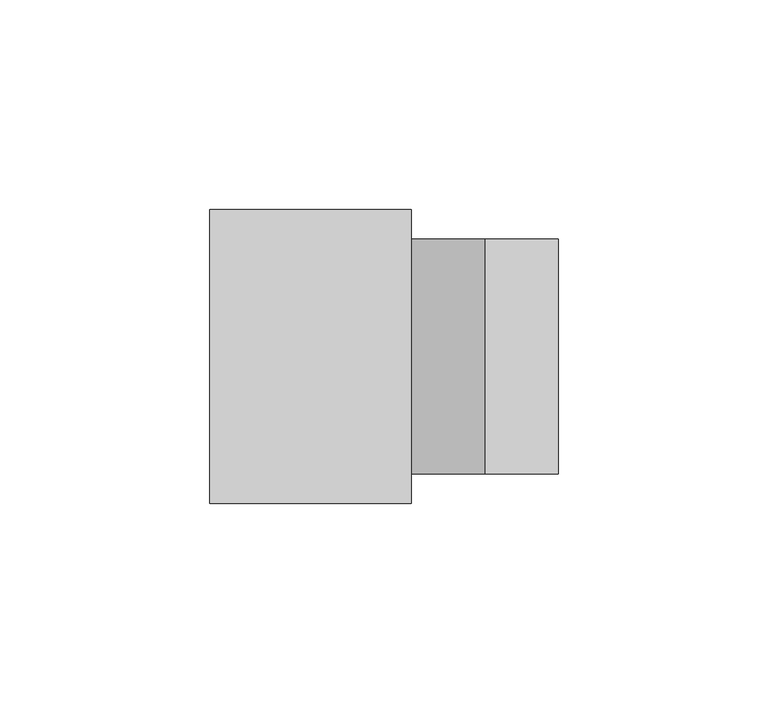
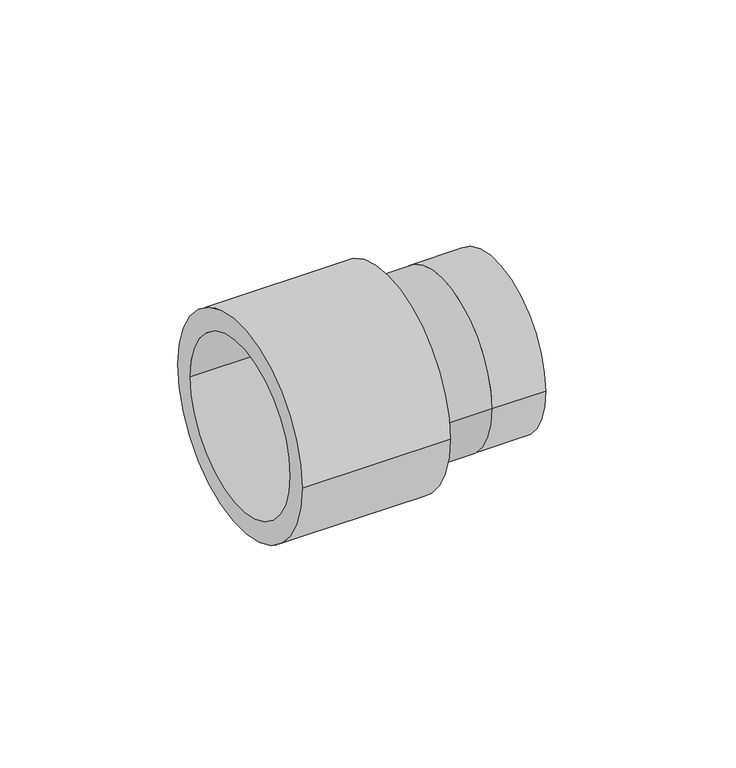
"""IFC4 building model written with IfcOpenShell, lengths in millimetres: pipe fitting geometry, NLRS_52_PIF_UN_PE overgang op lood_geb : DN50-54 / ø50-54."""

import ifcopenshell
import ifcopenshell.guid

model = None  # the IFC model being written
_history = None  # IfcOwnerHistory: only IFC2X3 demands one
_inside = {}  # id of a spatial element -> (the spatial element, [elements in it])
_under = {}  # id of a project, library or spatial element -> (it, [spatial elements below it])
_declared = {}  # id of a project -> (the project, [libraries it declares])
_typed = {}  # id of a type object -> (the type object, [elements of that type])
_made_of = {}  # id of a material, layer set ... -> (it, [elements and type objects made of it])


def new_model(schema):
    """Start an empty IFC model of exactly this schema.

    Asked for "IFC4X3", IfcOpenShell would pick the latest addendum, in which some entities
    have other attributes; the version numbers below select the first issue.
    IFC2X3 requires an IfcOwnerHistory on every rooted entity: one is made here for all.
    """
    global model, _history
    if schema == "IFC4X3":
        model = ifcopenshell.file(schema_version=(4, 3, 0, 0))
    else:
        model = ifcopenshell.file(schema=schema)
    _inside.clear()
    _under.clear()
    _declared.clear()
    _typed.clear()
    _made_of.clear()
    _history = None
    if model.schema == "IFC2X3":
        org = make("IfcOrganization", Name="unknown")
        user = make(
            "IfcPersonAndOrganization",
            ThePerson=make("IfcPerson", FamilyName="unknown"),
            TheOrganization=org,
        )
        app = make(
            "IfcApplication",
            ApplicationDeveloper=org,
            Version="unknown",
            ApplicationFullName="unknown",
            ApplicationIdentifier="unknown",
        )
        _history = make(
            "IfcOwnerHistory",
            OwningUser=user,
            OwningApplication=app,
            ChangeAction="ADDED",
            CreationDate=0,
        )
    return model


def make(cls, **values):
    """One entity of the class cls with the attributes given. An attribute that is None is left unset."""
    return model.create_entity(
        cls, **{name: value for name, value in values.items() if value is not None}
    )


def rooted(cls, **values):
    """An entity with a GlobalId (a new one), such as an element, a storey or a relation."""
    return make(cls, GlobalId=ifcopenshell.guid.new(), OwnerHistory=_history, **values)


def si_unit(unit_type, name, prefix=None):
    """IfcSIUnit, for example si_unit("LENGTHUNIT", "METRE", prefix="MILLI")."""
    return make("IfcSIUnit", UnitType=unit_type, Prefix=prefix, Name=name)


def assignment(units):
    """IfcUnitAssignment: the units of a project."""
    return None if units is None else make("IfcUnitAssignment", Units=units)


def point(xyz):
    """IfcCartesianPoint."""
    return None if xyz is None else make("IfcCartesianPoint", Coordinates=xyz)


def direction(xyz):
    """IfcDirection."""
    return None if xyz is None else make("IfcDirection", DirectionRatios=xyz)


def frame(location, z_axis=None, x_axis=None):
    """IfcAxis2Placement3D, a coordinate frame: its origin and axes. An axis left out is left unset."""
    return make(
        "IfcAxis2Placement3D",
        Location=point(location),
        Axis=direction(z_axis),
        RefDirection=direction(x_axis),
    )


def frame_2d(location, x_axis=None):
    """IfcAxis2Placement2D, a coordinate frame in the plane: its origin and x axis."""
    return make(
        "IfcAxis2Placement2D", Location=point(location), RefDirection=direction(x_axis)
    )


def origin():
    """The frame at (0, 0, 0) with its axes left unset."""
    return frame((0.0, 0.0, 0.0))


def origin_2d():
    """The frame at (0, 0) in the plane with its x axis left unset."""
    return frame_2d((0.0, 0.0))


def place(relative_to, where):
    """IfcLocalPlacement: puts the frame where relative to a parent placement (None: the world)."""
    return make(
        "IfcLocalPlacement", PlacementRelTo=relative_to, RelativePlacement=where
    )


def context(
    kind, dimensions, precision=None, world=None, true_north=None, identifier=None
):
    """IfcGeometricRepresentationContext, for example the 3D "Model" context."""
    return make(
        "IfcGeometricRepresentationContext",
        ContextIdentifier=identifier,
        ContextType=kind,
        CoordinateSpaceDimension=dimensions,
        Precision=precision,
        WorldCoordinateSystem=world,
        TrueNorth=true_north,
    )


def project(units=None, contexts=None):
    """IfcProject with its units and contexts."""
    return rooted(
        "IfcProject",
        Name="project",
        RepresentationContexts=contexts,
        UnitsInContext=assignment(units),
    )


def spatial(cls, under=None, at=None, **own):
    """A site, building, storey or space (cls), placed at a placement, below another one or the project."""
    s = rooted(cls, ObjectPlacement=at, **own)
    if under is not None:
        _under.setdefault(under.id(), (under, []))[1].append(s)
    return s


def circle_curve(where, radius):
    """IfcCircle in the frame where."""
    return make("IfcCircle", Position=where, Radius=radius)


def trimmed(basis, trim1, trim2, sense, master):
    """IfcTrimmedCurve: the piece of a basis curve between two trims."""
    return make(
        "IfcTrimmedCurve",
        BasisCurve=basis,
        Trim1=trim1,
        Trim2=trim2,
        SenseAgreement=sense,
        MasterRepresentation=master,
    )


def segment(curve, same_sense, transition):
    """IfcCompositeCurveSegment."""
    return make(
        "IfcCompositeCurveSegment",
        Transition=transition,
        SameSense=same_sense,
        ParentCurve=curve,
    )


def composite_curve(segments, self_intersect=None):
    """IfcCompositeCurve: segments joined end to end."""
    return make("IfcCompositeCurve", Segments=segments, SelfIntersect=self_intersect)


def outline(outer, holes=None, kind="AREA"):
    """IfcArbitraryClosedProfileDef: a profile drawn as a closed curve; with holes, ...WithVoids."""
    if holes is None:
        return make("IfcArbitraryClosedProfileDef", ProfileType=kind, OuterCurve=outer)
    return make(
        "IfcArbitraryProfileDefWithVoids",
        ProfileType=kind,
        OuterCurve=outer,
        InnerCurves=holes,
    )


def extrude(swept, where, along, depth):
    """IfcExtrudedAreaSolid: the profile swept, set in the frame where, extruded along a direction by depth."""
    return make(
        "IfcExtrudedAreaSolid",
        SweptArea=swept,
        Position=where,
        ExtrudedDirection=direction(along),
        Depth=depth,
    )


def shape(context_of_items, identifier, shape_type, items):
    """IfcShapeRepresentation: the items that make up one representation, for example the "Body"."""
    return make(
        "IfcShapeRepresentation",
        ContextOfItems=context_of_items,
        RepresentationIdentifier=identifier,
        RepresentationType=shape_type,
        Items=items,
    )


def source(mapping_origin, context_of_items, identifier, shape_type, items):
    """IfcRepresentationMap: a shape defined once, which mapped items show again and again."""
    return make(
        "IfcRepresentationMap",
        MappingOrigin=mapping_origin,
        MappedRepresentation=shape(context_of_items, identifier, shape_type, items),
    )


def transform(
    local_origin,
    x_axis=None,
    y_axis=None,
    z_axis=None,
    scale=None,
    scale2=None,
    scale3=None,
    uniform=True,
):
    """IfcCartesianTransformationOperator3D, or its non-uniform kind. x_axis, y_axis, z_axis: its Axis1, 2, 3."""
    if uniform:
        return make(
            "IfcCartesianTransformationOperator3D",
            Axis1=direction(x_axis),
            Axis2=direction(y_axis),
            LocalOrigin=point(local_origin),
            Scale=scale,
            Axis3=direction(z_axis),
        )
    return make(
        "IfcCartesianTransformationOperator3DnonUniform",
        Axis1=direction(x_axis),
        Axis2=direction(y_axis),
        LocalOrigin=point(local_origin),
        Scale=scale,
        Axis3=direction(z_axis),
        Scale2=scale2,
        Scale3=scale3,
    )


def mapped(mapping_source, mapping_target):
    """IfcMappedItem: shows the shape of a source again, moved by a transform."""
    return make(
        "IfcMappedItem", MappingSource=mapping_source, MappingTarget=mapping_target
    )


def made_of(thing, what):
    """Note that an element or type object is made of a material, layer set ...; save() writes the relation."""
    if what is not None:
        _made_of.setdefault(what.id(), (what, []))[1].append(thing)
    return thing


def element(
    cls,
    number,
    at=None,
    inside=None,
    cuts=None,
    type_object=None,
    material=None,
    context=None,
    identifier="Body",
    shape_type=None,
    held_by="IfcProductDefinitionShape",
    body=None,
    shapes=None,
    **own,
):
    """One element of the class cls, such as IfcWall. Its Tag is "e" and its number.

    at: its placement. inside: the storey or other place that contains it. cuts: it is an
    opening in that element (IfcRelVoidsElement). A single representation is given by context,
    identifier, shape_type and body (its items); several are given by shapes. held_by: the class
    of the entity that holds the representations. save() writes the other relations.
    """
    e = rooted(cls, Tag="e%d" % number, ObjectPlacement=at, **own)
    if body is not None:
        shapes = [shape(context, identifier, shape_type, body)]
    if shapes is not None:
        e.Representation = make(held_by, Representations=shapes)
    if inside is not None:
        _inside.setdefault(inside.id(), (inside, []))[1].append(e)
    if cuts is not None:
        rooted(
            "IfcRelVoidsElement", RelatingBuildingElement=cuts, RelatedOpeningElement=e
        )
    if type_object is not None:
        _typed.setdefault(type_object.id(), (type_object, []))[1].append(e)
    return made_of(e, material)


def aggregate(whole, parts):
    """IfcRelAggregates: a whole, such as a stair, and the parts it consists of."""
    return rooted("IfcRelAggregates", RelatingObject=whole, RelatedObjects=parts)


def save(model, path):
    """Write the relations noted so far, then the file.

    IfcRelAggregates (storeys below a building ...), IfcRelContainedInSpatialStructure (elements
    in a storey), IfcRelDefinesByType, IfcRelAssociatesMaterial and IfcRelDeclares: one each for
    every whole, place, type object, material and project.
    """
    for whole, parts in _under.values():
        aggregate(whole, parts)
    for where, things in _inside.values():
        rooted(
            "IfcRelContainedInSpatialStructure",
            RelatedElements=things,
            RelatingStructure=where,
        )
    for kind, things in _typed.values():
        rooted("IfcRelDefinesByType", RelatedObjects=things, RelatingType=kind)
    for what, things in _made_of.values():
        rooted("IfcRelAssociatesMaterial", RelatedObjects=things, RelatingMaterial=what)
    for by, libraries in _declared.values():
        rooted("IfcRelDeclares", RelatingContext=by, RelatedDefinitions=libraries)
    model.write(path)


def pipe_fitting_ec2da396(model_context):
    return source(origin(), model_context, "Body", "SweptSolid", [
        extrude(outline(composite_curve([segment(trimmed(circle_curve(origin_2d(), 28.0), [point((-28.0, 0.0))], [point((28.0, 0.0))], False, "CARTESIAN"), True, "CONTINUOUS"), segment(trimmed(circle_curve(origin_2d(), 28.0), [point((28.0, 0.0))], [point((-28.0, 0.0))], False, "CARTESIAN"), True, "CONTINUOUS")], self_intersect=False)), frame((0.0, 0.0, 0.0), z_axis=(1.0, 0.0, 0.0), x_axis=(0.0, 1.0, 0.0)), (0.0, 0.0, 1.0), 17.5),
        extrude(outline(composite_curve([segment(trimmed(circle_curve(origin_2d(), 28.0), [point((-28.0, 0.0))], [point((28.0, 0.0))], False, "CARTESIAN"), True, "CONTINUOUS"), segment(trimmed(circle_curve(origin_2d(), 28.0), [point((28.0, 0.0))], [point((-28.0, 0.0))], False, "CARTESIAN"), True, "CONTINUOUS")], self_intersect=False)), frame((17.5, 0.0, 0.0), z_axis=(1.0, 0.0, 0.0), x_axis=(0.0, 1.0, 0.0)), (0.0, 0.0, 1.0), 17.5),
        extrude(outline(composite_curve([segment(trimmed(circle_curve(origin_2d(), 35.0), [point((-35.0, 0.0))], [point((35.0, 0.0))], False, "CARTESIAN"), True, "CONTINUOUS"), segment(trimmed(circle_curve(origin_2d(), 35.0), [point((35.0, 0.0))], [point((-35.0, 0.0))], False, "CARTESIAN"), True, "CONTINUOUS")], self_intersect=False), holes=[composite_curve([segment(trimmed(circle_curve(origin_2d(), 28.0), [point((-28.0, 0.0))], [point((28.0, 0.0))], True, "CARTESIAN"), True, "CONTINUOUS"), segment(trimmed(circle_curve(origin_2d(), 28.0), [point((28.0, 0.0))], [point((-28.0, 0.0))], True, "CARTESIAN"), True, "CONTINUOUS")], self_intersect=False)]), frame((-48.0, 0.0, 0.0), z_axis=(1.0, 0.0, 0.0), x_axis=(0.0, 1.0, 0.0)), (0.0, 0.0, 1.0), 48.0),
    ])


if __name__ == "__main__":
    model = new_model("IFC4")
    model_context = context("Model", 3, world=origin())
    ifc_project = project(units=[si_unit("LENGTHUNIT", "METRE", prefix="MILLI")], contexts=[model_context])
    site = spatial("IfcSite", under=ifc_project)
    building = spatial("IfcBuilding", under=site)
    placement = place(None, origin())
    pipe_fitting_shape = pipe_fitting_ec2da396(model_context)
    element("IfcPipeFitting", 1, ObjectType="NLRS_52_PIF_UN_PE overgang op lood_geb : DN50-54 / ø50-54", at=placement, inside=building, context=model_context, shape_type="MappedRepresentation", body=[
        mapped(pipe_fitting_shape, transform((0.0, 0.0, 0.0), x_axis=(1.0, 0.0, 0.0), y_axis=(0.0, 1.0, 0.0), z_axis=(0.0, 0.0, 1.0))),
    ])
    save(model, "model.ifc")
